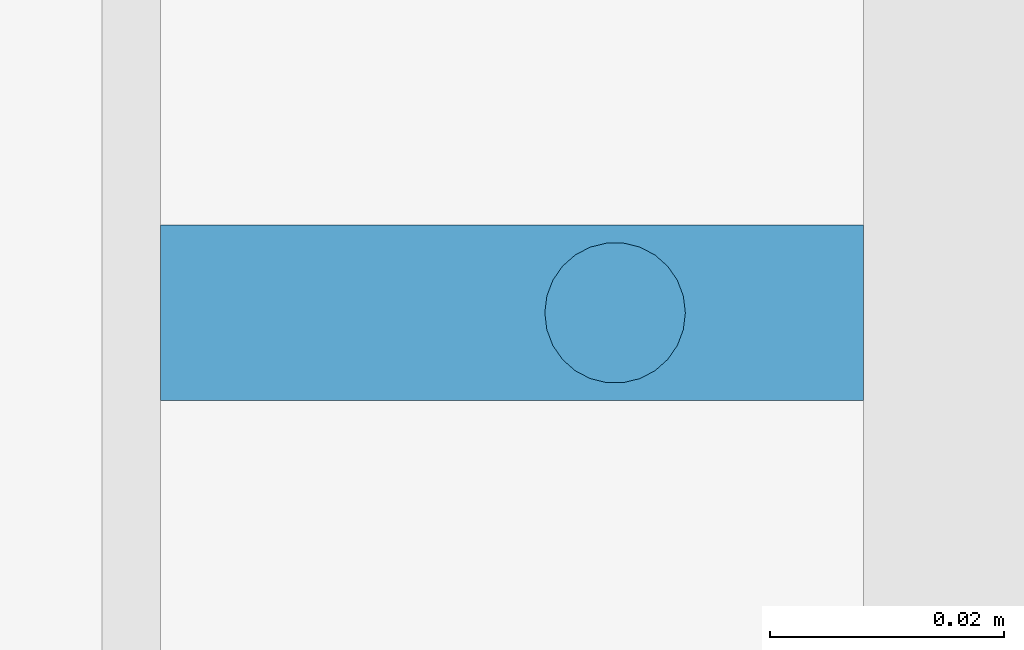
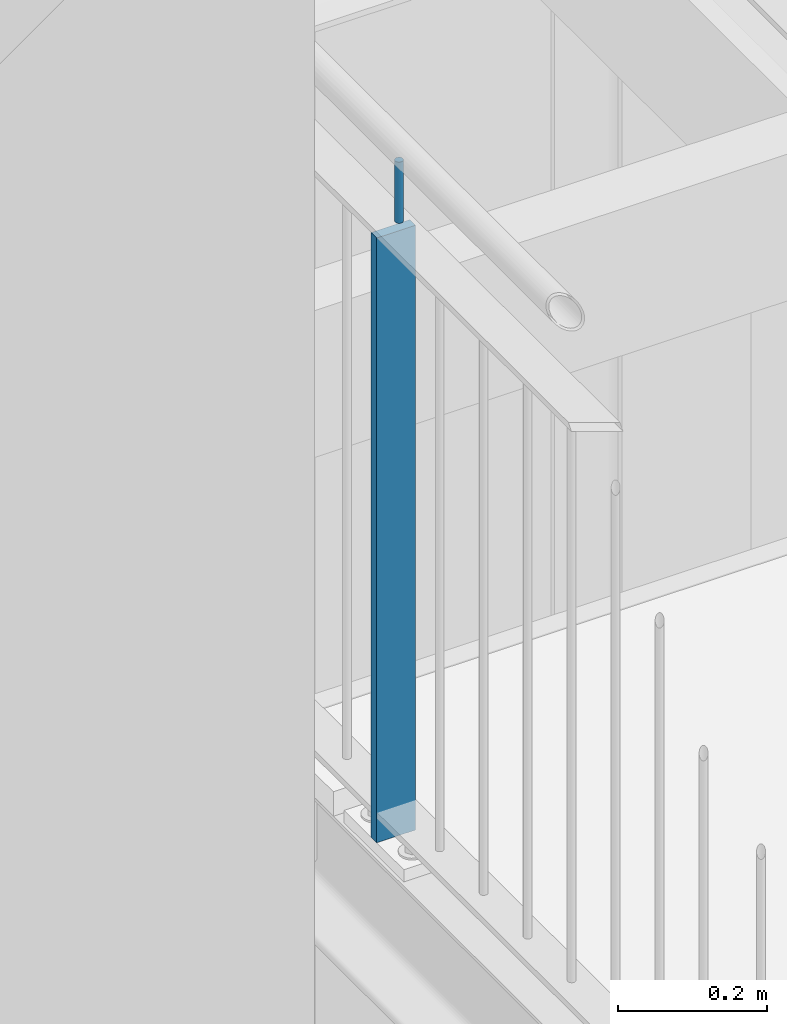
# One storey, part 20 of 825: 2 columns.
"""IFC2X3 building model written with IfcOpenShell, lengths in millimetres."""

from ifc_helpers import new_model, entity, si_unit, converted_unit, frame, origin, origin_with_axes, origin_2d, place, context, project, spatial, rectangle, circle, extrude, clip, halfspace, material, element, save


model = new_model("IFC2X3")

# Units and contexts
model_context = context("Model", 3, precision=1e-09, world=origin_with_axes())
ifc_project = project(units=[si_unit("LENGTHUNIT", "METRE", prefix="MILLI"), si_unit("AREAUNIT", "SQUARE_METRE"), si_unit("VOLUMEUNIT", "CUBIC_METRE"), converted_unit("PLANEANGLEUNIT", "DEGREE", entity("IfcPlaneAngleMeasure", 0.01745329), si_unit("PLANEANGLEUNIT", "RADIAN"), dimensions=[0, 0, 0, 0, 0, 0, 0])], contexts=[model_context])

# Site, building, storey
site_placement = place(None, origin_with_axes())
site = spatial("IfcSite", under=ifc_project, at=site_placement, Name="Cnopf'sche Kinderklinik", CompositionType="ELEMENT")
building_placement = place(site_placement, origin_with_axes())
building = spatial("IfcBuilding", under=site, at=building_placement, Name="Struktur 1", CompositionType="ELEMENT")
storey_placement = place(building_placement, origin_with_axes())
storey = spatial("IfcBuildingStorey", under=building, at=storey_placement, Name="Default Storey", CompositionType="ELEMENT", Elevation=0.0)

# Columns
ifc_material = material(Name="S235JR")
column_1_placement = place(None, frame((3271.713402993, 5461.738971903, 18873.723292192), z_axis=(0.0, 0.0, 1.0), x_axis=(0.0, 1.0, 0.0)))
element("IfcColumn", 1, at=column_1_placement, inside=storey, material=ifc_material, Name="Railing_Post_Landing#14", ObjectType="Railing_Post_Landing#14", context=model_context, shape_type="Clipping", body=[
    clip(clip(extrude(rectangle(XDim=15.0, YDim=60.0, at=origin_2d()), origin(), (0.0, 0.0, -1.0), 1070.646584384), halfspace(frame((-5461.738971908, 3271.713402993, -1019.722292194), z_axis=(0.0, 0.0, 1.0), x_axis=(0.0, -1.0, 0.0)), True)), halfspace(frame((-5461.738971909, 3271.713402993, -30.924292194), z_axis=(0.0, 0.0, -1.0), x_axis=(0.0, 1.0, 0.0)), True)),
])
column_2_placement = place(None, frame((3280.513402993, 5461.738971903, 18961.285281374), z_axis=(0.0, 0.0, 1.0), x_axis=(1.0, 0.0, 0.0)))
element("IfcColumn", 2, at=column_2_placement, inside=storey, material=ifc_material, Name="Bar#14", ObjectType="Bar#14", context=model_context, shape_type="Clipping", body=[
    clip(clip(extrude(circle(Radius=6.0, at=origin_2d()), origin(), (0.0, 0.0, -1.0), 116.970562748), halfspace(frame((-3280.513402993, -5461.738971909, -8.486281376), z_axis=(0.0, 0.0, -1.0), x_axis=(-1.0, 0.0, 0.0)), True)), halfspace(frame((-3280.513402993, -5461.738971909, -108.484281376), z_axis=(0.0, 0.0, 1.0), x_axis=(1.0, 0.0, 0.0)), True)),
])

save(model, "model.ifc")
